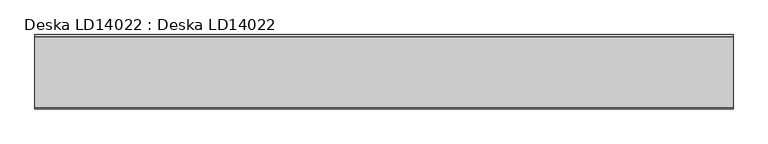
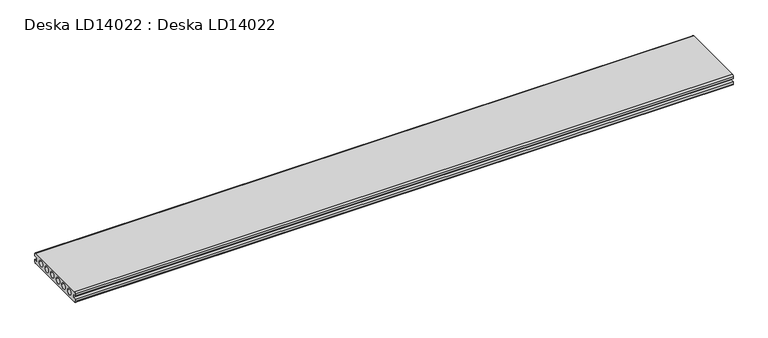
"""IFC4 building model written with IfcOpenShell, lengths in millimetres: proxy geometry, Deska LD14022 : Deska LD14022."""

from ifc_helpers import new_model, si_unit, point, frame, frame_2d, origin, place, context, project, spatial, polyline, circle_curve, trimmed, segment, composite_curve, outline, extrude, source, transform, mapped, element, save


def deska_ld14022_deska_ld14022_3323a89d(model_context):
    return source(origin(), model_context, "Body", "SweptSolid", [
        extrude(outline(composite_curve([segment(polyline([(-7.0, 14.5), (-7.0, 7.5), (0.0, 7.5), (0.0, 3.0)]), True, "CONTINUOUS"), segment(trimmed(circle_curve(frame_2d((-3.0, 3.0)), 3.0), [point((0.0, 3.0))], [point((-3.0, 0.0))], False, "CARTESIAN"), True, "CONTINUOUS"), segment(polyline([(-3.0, 0.0), (-137.0, 0.0)]), True, "CONTINUOUS"), segment(trimmed(circle_curve(frame_2d((-137.0, 3.0)), 3.0), [point((-137.0, 0.0))], [point((-140.0, 3.0))], False, "CARTESIAN"), True, "CONTINUOUS"), segment(polyline([(-140.0, 3.0), (-140.0, 7.5), (-133.0, 7.5), (-133.0, 14.5), (-140.0, 14.5), (-140.0, 19.0)]), True, "CONTINUOUS"), segment(trimmed(circle_curve(frame_2d((-137.0, 19.0)), 3.0), [point((-140.0, 19.0))], [point((-137.0, 22.0))], False, "CARTESIAN"), True, "CONTINUOUS"), segment(polyline([(-137.0, 22.0), (-3.0, 22.0)]), True, "CONTINUOUS"), segment(trimmed(circle_curve(frame_2d((-3.0, 19.0)), 3.0), [point((-3.0, 22.0))], [point((0.0, 19.0))], False, "CARTESIAN"), True, "CONTINUOUS"), segment(polyline([(0.0, 19.0), (0.0, 14.5), (-7.0, 14.5)]), True, "CONTINUOUS")], self_intersect=False), holes=[composite_curve([segment(trimmed(circle_curve(frame_2d((-21.0, 11.0)), 6.0), [point((-15.0, 11.0))], [point((-27.0, 11.0))], True, "CARTESIAN"), True, "CONTINUOUS"), segment(trimmed(circle_curve(frame_2d((-21.0, 11.0)), 6.0), [point((-27.0, 11.0))], [point((-15.0, 11.0))], True, "CARTESIAN"), True, "CONTINUOUS")], self_intersect=False), composite_curve([segment(trimmed(circle_curve(frame_2d((-41.0, 11.0)), 6.0), [point((-35.0, 11.0))], [point((-47.0, 11.0))], True, "CARTESIAN"), True, "CONTINUOUS"), segment(trimmed(circle_curve(frame_2d((-41.0, 11.0)), 6.0), [point((-47.0, 11.0))], [point((-35.0, 11.0))], True, "CARTESIAN"), True, "CONTINUOUS")], self_intersect=False), composite_curve([segment(trimmed(circle_curve(frame_2d((-60.0, 11.0)), 6.0), [point((-54.0, 11.0))], [point((-66.0, 11.0))], True, "CARTESIAN"), True, "CONTINUOUS"), segment(trimmed(circle_curve(frame_2d((-60.0, 11.0)), 6.0), [point((-66.0, 11.0))], [point((-54.0, 11.0))], True, "CARTESIAN"), True, "CONTINUOUS")], self_intersect=False), composite_curve([segment(trimmed(circle_curve(frame_2d((-80.0, 11.0)), 6.0), [point((-74.0, 11.0))], [point((-86.0, 11.0))], True, "CARTESIAN"), True, "CONTINUOUS"), segment(trimmed(circle_curve(frame_2d((-80.0, 11.0)), 6.0), [point((-86.0, 11.0))], [point((-74.0, 11.0))], True, "CARTESIAN"), True, "CONTINUOUS")], self_intersect=False), composite_curve([segment(trimmed(circle_curve(frame_2d((-99.0, 11.0)), 6.0), [point((-93.0, 11.0))], [point((-105.0, 11.0))], True, "CARTESIAN"), True, "CONTINUOUS"), segment(trimmed(circle_curve(frame_2d((-99.0, 11.0)), 6.0), [point((-105.0, 11.0))], [point((-93.0, 11.0))], True, "CARTESIAN"), True, "CONTINUOUS")], self_intersect=False), composite_curve([segment(trimmed(circle_curve(frame_2d((-119.0, 11.0)), 6.0), [point((-113.0, 11.0))], [point((-125.0, 11.0))], True, "CARTESIAN"), True, "CONTINUOUS"), segment(trimmed(circle_curve(frame_2d((-119.0, 11.0)), 6.0), [point((-125.0, 11.0))], [point((-113.0, 11.0))], True, "CARTESIAN"), True, "CONTINUOUS")], self_intersect=False)]), frame((0.0, 0.0, 0.0), z_axis=(1.0, 0.0, 0.0), x_axis=(0.0, 1.0, 0.0)), (0.0, 0.0, 1.0), 1314.7267944),
    ])


if __name__ == "__main__":
    model = new_model("IFC4")
    model_context = context("Model", 3, world=origin())
    ifc_project = project(units=[si_unit("LENGTHUNIT", "METRE", prefix="MILLI")], contexts=[model_context])
    site = spatial("IfcSite", under=ifc_project)
    building = spatial("IfcBuilding", under=site)
    placement = place(None, origin())
    deska_ld14022_deska_ld14022_shape = deska_ld14022_deska_ld14022_3323a89d(model_context)
    element("IfcBuildingElementProxy", 1, Name="Deska LD14022 : Deska LD14022", ObjectType="Deska LD14022 : Deska LD14022", at=placement, inside=building, context=model_context, shape_type="MappedRepresentation", body=[
        mapped(deska_ld14022_deska_ld14022_shape, transform((0.0, 0.0, 0.0), x_axis=(1.0, 0.0, 0.0), y_axis=(0.0, 1.0, 0.0), z_axis=(0.0, 0.0, 1.0))),
    ])
    save(model, "model.ifc")
